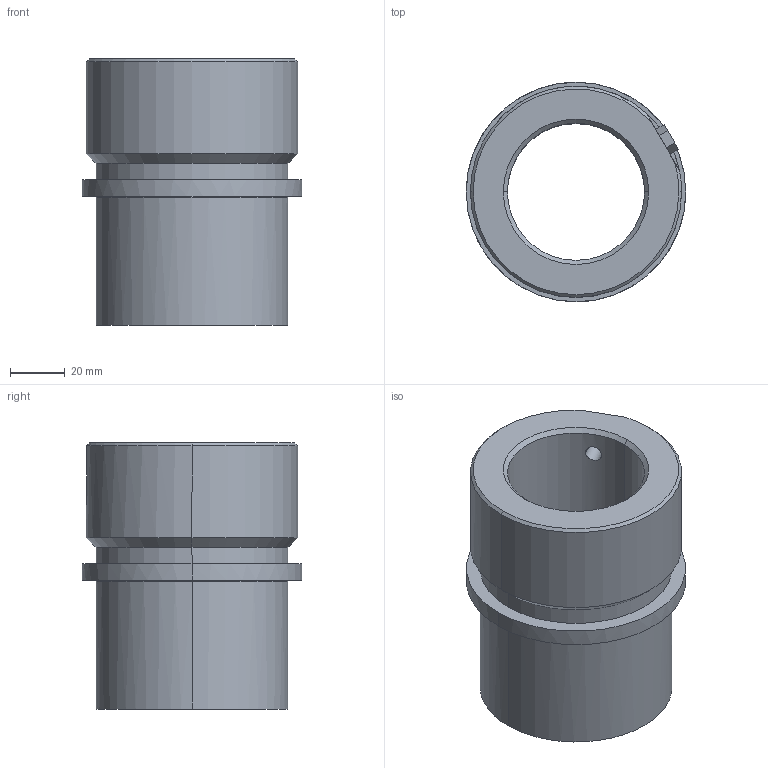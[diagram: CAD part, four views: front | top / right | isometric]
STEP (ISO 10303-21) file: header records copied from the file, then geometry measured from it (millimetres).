
FILE_DESCRIPTION(('CATIA V5 STEP Exchange'),'2;1');
FILE_NAME('C:\Users\Utente\Desktop\IO LAVORO\3D X SITO CF\X SITO\741\741-50.stp','2021-01-20T17:56:20+00:00',('none'),('none'),'CATIA Version 5 Release 20 GA (IN-10)','CATIA V5 STEP AP203','none');
FILE_SCHEMA(('CONFIG_CONTROL_DESIGN'));
Length unit declared in the file: millimetre
Products named in the file (1): 741-50
Assembly tree (1 placements, depth 2):
  741-50
    #58
Bounding box: 80 x 80 x 97 mm (x, y, z)
Volume: 218064.4 mm3; surface area: 45049.6 mm2
Topology: 1 solids, 1 shells, 42 faces, 93 edges, 58 vertices
Faces by surface type: plane 15, cylinder 14, cone 9, torus 4
Entity records: 1337 total; most frequent: CARTESIAN_POINT 369, ORIENTED_EDGE 186, DIRECTION 168, EDGE_CURVE 93, AXIS2_PLACEMENT_3D 81, VERTEX_POINT 58, EDGE_LOOP 49, VECTOR 44
